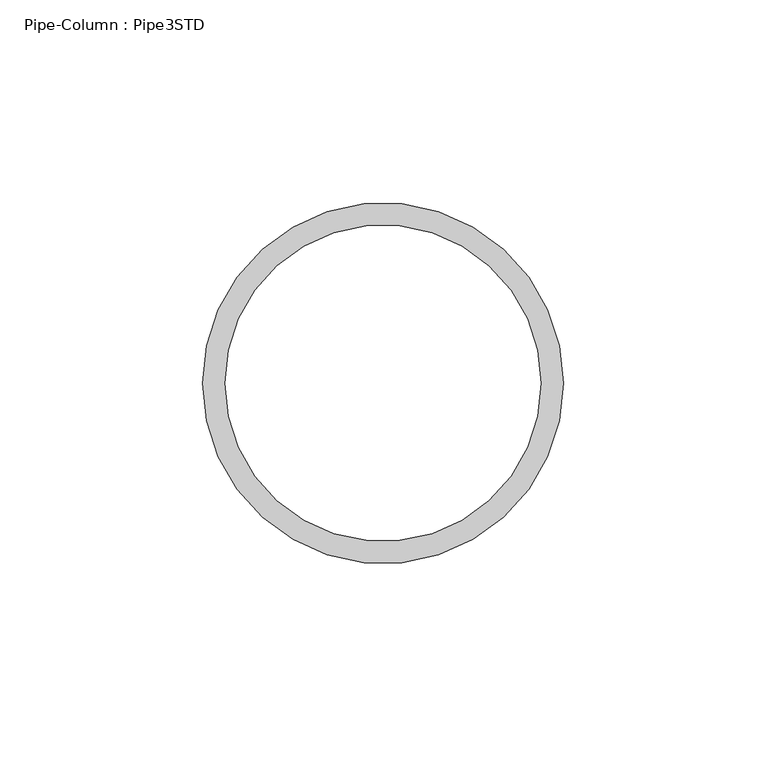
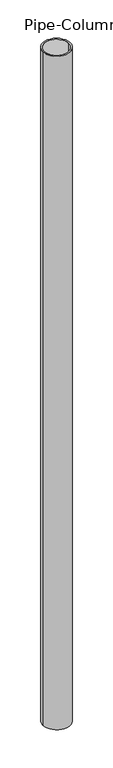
"""IFC4 building model written with IfcOpenShell, lengths in millimetres: column geometry, Pipe-Column : Pipe3STD."""

from ifc_helpers import new_model, si_unit, point, frame, origin, origin_2d, place, context, project, spatial, circle_curve, trimmed, segment, composite_curve, outline, extrude, source, transform, mapped, element, save


def pipe_column_pipe3std_e1548283(model_context):
    return source(origin(), model_context, "Body", "SweptSolid", [
        extrude(outline(composite_curve([segment(trimmed(circle_curve(origin_2d(), 44.45), [point((-44.45, 0.0))], [point((44.45, 0.0))], False, "CARTESIAN"), True, "CONTINUOUS"), segment(trimmed(circle_curve(origin_2d(), 44.45), [point((44.45, 0.0))], [point((-44.45, 0.0))], False, "CARTESIAN"), True, "CONTINUOUS")], self_intersect=False), holes=[composite_curve([segment(trimmed(circle_curve(origin_2d(), 38.9636), [point((-38.9636, 0.0))], [point((38.9636, 0.0))], True, "CARTESIAN"), True, "CONTINUOUS"), segment(trimmed(circle_curve(origin_2d(), 38.9636), [point((38.9636, 0.0))], [point((-38.9636, 0.0))], True, "CARTESIAN"), True, "CONTINUOUS")], self_intersect=False)]), frame((0.0, 0.0, -2876.55), z_axis=(0.0, 0.0, 1.0), x_axis=(1.0, 0.0, 0.0)), (0.0, 0.0, 1.0), 2313.1859375),
    ])


if __name__ == "__main__":
    model = new_model("IFC4")
    model_context = context("Model", 3, world=origin())
    ifc_project = project(units=[si_unit("LENGTHUNIT", "METRE", prefix="MILLI")], contexts=[model_context])
    site = spatial("IfcSite", under=ifc_project)
    building = spatial("IfcBuilding", under=site)
    placement = place(None, origin())
    pipe_column_pipe3std_shape = pipe_column_pipe3std_e1548283(model_context)
    element("IfcColumn", 1, ObjectType="Pipe-Column : Pipe3STD", at=placement, inside=building, context=model_context, shape_type="MappedRepresentation", body=[
        mapped(pipe_column_pipe3std_shape, transform((0.0, 0.0, 0.0), x_axis=(1.0, 0.0, 0.0), y_axis=(0.0, 1.0, 0.0), z_axis=(0.0, 0.0, 1.0))),
    ])
    save(model, "model.ifc")
